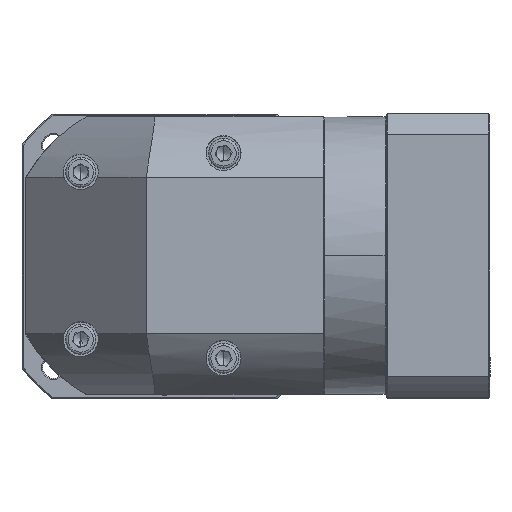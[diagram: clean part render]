
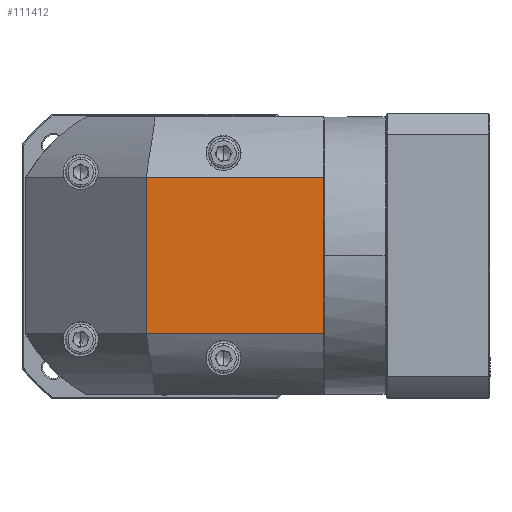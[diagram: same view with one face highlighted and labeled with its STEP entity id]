
A CAD part, top view. The second image highlights one B-rep face of the part: STEP entity #111412.
In plain terms, the highlighted planar face has unit normal (0, 0, 1).
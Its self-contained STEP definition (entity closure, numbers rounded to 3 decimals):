
#1611 = CARTESIAN_POINT ( 'NONE',  ( -12.167, 36.419, 67.055 ) ) ;
#8200 = DIRECTION ( 'NONE',  ( 0., 1., 0. ) ) ;
#10833 = CARTESIAN_POINT ( 'NONE',  ( 111.233, 101.219, 67.055 ) ) ;
#13053 = CARTESIAN_POINT ( 'NONE',  ( 37.833, 101.219, 67.055 ) ) ;
#17940 = VERTEX_POINT ( 'NONE', #13053 ) ;
#25207 = ORIENTED_EDGE ( 'NONE', *, *, #65935, .F. ) ;
#26472 = DIRECTION ( 'NONE',  ( 0., 0., -1. ) ) ;
#28913 = ORIENTED_EDGE ( 'NONE', *, *, #105621, .F. ) ;
#30805 = CARTESIAN_POINT ( 'NONE',  ( 37.833, 36.419, 67.055 ) ) ;
#31826 = VECTOR ( 'NONE', #96755, 1000. ) ;
#32145 = VERTEX_POINT ( 'NONE', #66662 ) ;
#42394 = ORIENTED_EDGE ( 'NONE', *, *, #133361, .F. ) ;
#49575 = LINE ( 'NONE', #1611, #31826 ) ;
#57277 = DIRECTION ( 'NONE',  ( 0., -1., 0. ) ) ;
#57706 = PLANE ( 'NONE',  #75283 ) ;
#64317 = EDGE_CURVE ( 'NONE', #17940, #109526, #130315, .T. ) ;
#65935 = EDGE_CURVE ( 'NONE', #109526, #32145, #107891, .T. ) ;
#66662 = CARTESIAN_POINT ( 'NONE',  ( 111.233, 36.419, 67.055 ) ) ;
#75283 = AXIS2_PLACEMENT_3D ( 'NONE', #89432, #26472, #57277 ) ;
#76296 = EDGE_LOOP ( 'NONE', ( #89943, #42394, #28913, #25207 ) ) ;
#79361 = CARTESIAN_POINT ( 'NONE',  ( 37.833, 126.319, 67.055 ) ) ;
#89432 = CARTESIAN_POINT ( 'NONE',  ( 45.333, 68.819, 67.055 ) ) ;
#89943 = ORIENTED_EDGE ( 'NONE', *, *, #64317, .F. ) ;
#91035 = VECTOR ( 'NONE', #8200, 1000. ) ;
#92726 = LINE ( 'NONE', #79361, #91035 ) ;
#96755 = DIRECTION ( 'NONE',  ( -1., 0., 0. ) ) ;
#98086 = DIRECTION ( 'NONE',  ( 0., -1., 0. ) ) ;
#102774 = VECTOR ( 'NONE', #109954, 1000. ) ;
#103765 = FACE_OUTER_BOUND ( 'NONE', #76296, .T. ) ;
#105621 = EDGE_CURVE ( 'NONE', #32145, #123384, #49575, .T. ) ;
#107891 = LINE ( 'NONE', #108552, #114441 ) ;
#108552 = CARTESIAN_POINT ( 'NONE',  ( 111.233, 126.319, 67.055 ) ) ;
#109526 = VERTEX_POINT ( 'NONE', #10833 ) ;
#109954 = DIRECTION ( 'NONE',  ( 1., 0., 0. ) ) ;
#111412 = ADVANCED_FACE ( 'NONE', ( #103765 ), #57706, .F. ) ;
#114441 = VECTOR ( 'NONE', #98086, 1000. ) ;
#123384 = VERTEX_POINT ( 'NONE', #30805 ) ;
#130315 = LINE ( 'NONE', #131698, #102774 ) ;
#131698 = CARTESIAN_POINT ( 'NONE',  ( -12.167, 101.219, 67.055 ) ) ;
#133361 = EDGE_CURVE ( 'NONE', #123384, #17940, #92726, .T. ) ;
